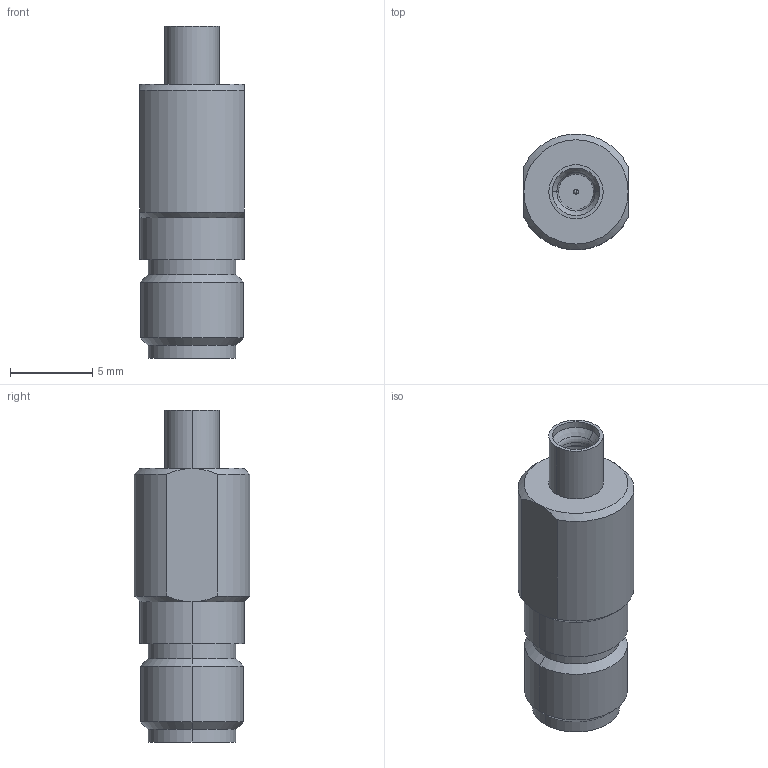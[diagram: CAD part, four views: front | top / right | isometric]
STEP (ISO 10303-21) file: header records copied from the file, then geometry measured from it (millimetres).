
FILE_DESCRIPTION (( 'STEP AP214' ), '1' );
FILE_NAME ('SF1132-6027.STEP', '2015-06-22T13:34:57', ( 'image' ), ( '' ), 'SwSTEP 2.0', 'SolidWorks 2014', '' );
FILE_SCHEMA (( 'AUTOMOTIVE_DESIGN' ));
Length unit declared in the file: inch
Products named in the file (1): SF1132-6027
Bounding box: 6.35 x 7.04 x 20.22 mm (x, y, z)
Volume: 538.8 mm3; surface area: 494.2 mm2
Topology: 1 solids, 1 shells, 48 faces, 100 edges, 57 vertices
Faces by surface type: cylinder 22, cone 14, plane 8, sphere 2, torus 2
Entity records: 1946 total; most frequent: DIRECTION 244, CARTESIAN_POINT 244, ORIENTED_EDGE 196, AXIS2_PLACEMENT_3D 105, EDGE_CURVE 98, VERTEX_POINT 57, CIRCLE 56, EDGE_LOOP 53
